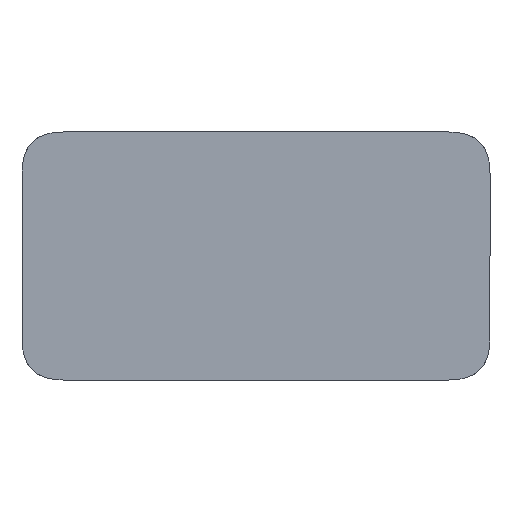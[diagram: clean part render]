
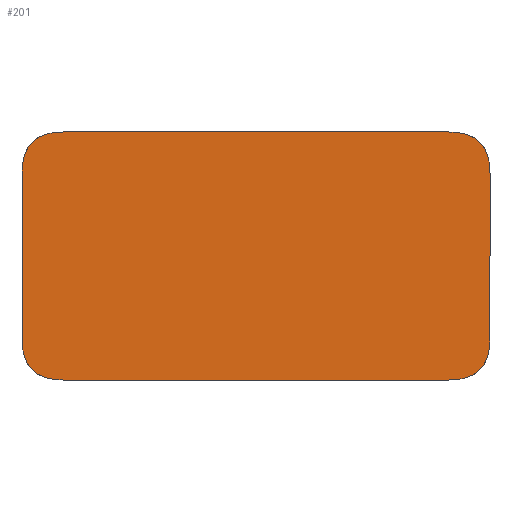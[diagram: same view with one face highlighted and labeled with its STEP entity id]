
A CAD part, front view. The second image highlights one B-rep face of the part: STEP entity #201.
In plain terms, the highlighted planar face has unit normal (0, -1, 0).
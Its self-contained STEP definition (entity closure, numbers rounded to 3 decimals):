
#88 = CARTESIAN_POINT ( 'NONE',  ( 0., 0., 0. ) ) ;
#92 = CARTESIAN_POINT ( 'NONE',  ( 100.726, 0., -60.259 ) ) ;
#101 = VECTOR ( 'NONE', #1172, 1000. ) ;
#134 = B_SPLINE_CURVE_WITH_KNOTS ( 'NONE', 3,
 ( #558, #997, #1684, #1079 ),
 .UNSPECIFIED., .F., .F.,
 ( 4, 4 ),
 ( 0., 1. ),
 .UNSPECIFIED. ) ;
#166 = CARTESIAN_POINT ( 'NONE',  ( -120.015, 0., -60.259 ) ) ;
#172 = CARTESIAN_POINT ( 'NONE',  ( -120.015, 0., 40.259 ) ) ;
#201 = ADVANCED_FACE ( 'NONE', ( #2062 ), #867, .F. ) ;
#257 = CARTESIAN_POINT ( 'NONE',  ( 87.393, 0., -60.259 ) ) ;
#294 = CARTESIAN_POINT ( 'NONE',  ( 87.393, 0., -60.259 ) ) ;
#317 = CARTESIAN_POINT ( 'NONE',  ( -120.015, 0., 40.259 ) ) ;
#342 = AXIS2_PLACEMENT_3D ( 'NONE', #88, #699, #1636 ) ;
#404 = VECTOR ( 'NONE', #734, 1000. ) ;
#441 = VERTEX_POINT ( 'NONE', #442 ) ;
#442 = CARTESIAN_POINT ( 'NONE',  ( -120.015, 0., -40.259 ) ) ;
#443 = B_SPLINE_CURVE_WITH_KNOTS ( 'NONE', 3,
 ( #257, #92, #2002, #743 ),
 .UNSPECIFIED., .F., .F.,
 ( 4, 4 ),
 ( 0., 1. ),
 .UNSPECIFIED. ) ;
#468 = ORIENTED_EDGE ( 'NONE', *, *, #1832, .T. ) ;
#505 = B_SPLINE_CURVE_WITH_KNOTS ( 'NONE', 3,
 ( #1176, #1894, #1149, #751 ),
 .UNSPECIFIED., .F., .F.,
 ( 4, 4 ),
 ( 0., 1. ),
 .UNSPECIFIED. ) ;
#508 = CARTESIAN_POINT ( 'NONE',  ( 107.393, 0., -40.259 ) ) ;
#530 = LINE ( 'NONE', #1584, #101 ) ;
#545 = CARTESIAN_POINT ( 'NONE',  ( 107.393, 0., 40.259 ) ) ;
#558 = CARTESIAN_POINT ( 'NONE',  ( -120.015, 0., -40.259 ) ) ;
#605 = CARTESIAN_POINT ( 'NONE',  ( 87.393, 0., 60.259 ) ) ;
#616 = DIRECTION ( 'NONE',  ( -1., 0., 0. ) ) ;
#699 = DIRECTION ( 'NONE',  ( 0., 1., 0. ) ) ;
#731 = EDGE_CURVE ( 'NONE', #1716, #803, #753, .T. ) ;
#734 = DIRECTION ( 'NONE',  ( 1., 0., 0. ) ) ;
#743 = CARTESIAN_POINT ( 'NONE',  ( 107.393, 0., -40.259 ) ) ;
#751 = CARTESIAN_POINT ( 'NONE',  ( 87.393, 0., 60.259 ) ) ;
#753 = LINE ( 'NONE', #166, #1567 ) ;
#782 = EDGE_CURVE ( 'NONE', #1035, #1889, #505, .T. ) ;
#799 = CARTESIAN_POINT ( 'NONE',  ( -120.015, 0., 60.259 ) ) ;
#803 = VERTEX_POINT ( 'NONE', #1939 ) ;
#867 = PLANE ( 'NONE',  #342 ) ;
#947 = LINE ( 'NONE', #799, #404 ) ;
#958 = EDGE_CURVE ( 'NONE', #1716, #1530, #443, .T. ) ;
#997 = CARTESIAN_POINT ( 'NONE',  ( -120.015, 0., -53.592 ) ) ;
#1025 = CARTESIAN_POINT ( 'NONE',  ( -100.015, 0., 60.259 ) ) ;
#1035 = VERTEX_POINT ( 'NONE', #545 ) ;
#1051 = CARTESIAN_POINT ( 'NONE',  ( -120.015, 0., -60.259 ) ) ;
#1079 = CARTESIAN_POINT ( 'NONE',  ( -100.015, 0., -60.259 ) ) ;
#1080 = ORIENTED_EDGE ( 'NONE', *, *, #2076, .F. ) ;
#1087 = VECTOR ( 'NONE', #1763, 1000. ) ;
#1149 = CARTESIAN_POINT ( 'NONE',  ( 100.726, 0., 60.259 ) ) ;
#1172 = DIRECTION ( 'NONE',  ( 0., 0., -1. ) ) ;
#1176 = CARTESIAN_POINT ( 'NONE',  ( 107.393, 0., 40.259 ) ) ;
#1192 = ORIENTED_EDGE ( 'NONE', *, *, #958, .T. ) ;
#1236 = EDGE_CURVE ( 'NONE', #441, #803, #134, .T. ) ;
#1457 = CARTESIAN_POINT ( 'NONE',  ( -100.015, 0., 60.259 ) ) ;
#1488 = CARTESIAN_POINT ( 'NONE',  ( -113.348, 0., 60.259 ) ) ;
#1509 = ORIENTED_EDGE ( 'NONE', *, *, #1236, .T. ) ;
#1530 = VERTEX_POINT ( 'NONE', #508 ) ;
#1560 = ORIENTED_EDGE ( 'NONE', *, *, #731, .F. ) ;
#1567 = VECTOR ( 'NONE', #616, 1000. ) ;
#1584 = CARTESIAN_POINT ( 'NONE',  ( 107.393, 0., -60.259 ) ) ;
#1605 = B_SPLINE_CURVE_WITH_KNOTS ( 'NONE', 3,
 ( #1025, #1488, #2046, #172 ),
 .UNSPECIFIED., .F., .F.,
 ( 4, 4 ),
 ( 0., 1. ),
 .UNSPECIFIED. ) ;
#1636 = DIRECTION ( 'NONE',  ( 0., 0., 1. ) ) ;
#1684 = CARTESIAN_POINT ( 'NONE',  ( -113.348, 0., -60.259 ) ) ;
#1706 = ORIENTED_EDGE ( 'NONE', *, *, #782, .T. ) ;
#1716 = VERTEX_POINT ( 'NONE', #294 ) ;
#1719 = VERTEX_POINT ( 'NONE', #317 ) ;
#1732 = VERTEX_POINT ( 'NONE', #1457 ) ;
#1735 = EDGE_CURVE ( 'NONE', #441, #1719, #1920, .T. ) ;
#1763 = DIRECTION ( 'NONE',  ( 0., 0., 1. ) ) ;
#1832 = EDGE_CURVE ( 'NONE', #1732, #1719, #1605, .T. ) ;
#1851 = ORIENTED_EDGE ( 'NONE', *, *, #1907, .F. ) ;
#1889 = VERTEX_POINT ( 'NONE', #605 ) ;
#1894 = CARTESIAN_POINT ( 'NONE',  ( 107.393, 0., 53.592 ) ) ;
#1907 = EDGE_CURVE ( 'NONE', #1732, #1889, #947, .T. ) ;
#1920 = LINE ( 'NONE', #1051, #1087 ) ;
#1939 = CARTESIAN_POINT ( 'NONE',  ( -100.015, 0., -60.259 ) ) ;
#1977 = EDGE_LOOP ( 'NONE', ( #2027, #1509, #1560, #1192, #1080, #1706, #1851, #468 ) ) ;
#2002 = CARTESIAN_POINT ( 'NONE',  ( 107.393, 0., -53.592 ) ) ;
#2027 = ORIENTED_EDGE ( 'NONE', *, *, #1735, .F. ) ;
#2046 = CARTESIAN_POINT ( 'NONE',  ( -120.015, 0., 53.592 ) ) ;
#2062 = FACE_OUTER_BOUND ( 'NONE', #1977, .T. ) ;
#2076 = EDGE_CURVE ( 'NONE', #1035, #1530, #530, .T. ) ;
